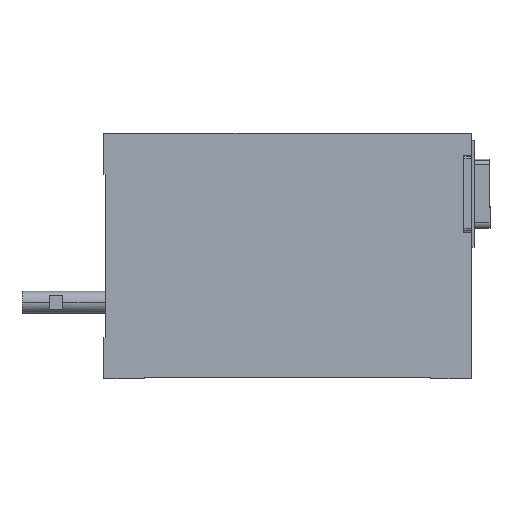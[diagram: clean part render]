
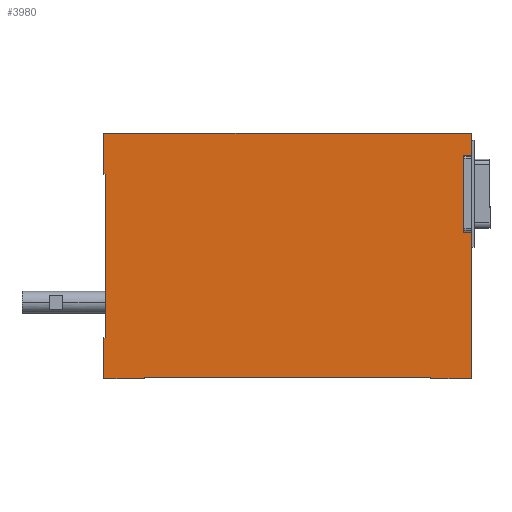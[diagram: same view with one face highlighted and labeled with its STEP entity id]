
A CAD part, top view. The second image highlights one B-rep face of the part: STEP entity #3980.
In plain terms, the highlighted planar face has unit normal (0, 0, 1).
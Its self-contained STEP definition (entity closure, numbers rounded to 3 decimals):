
#2625=CARTESIAN_POINT('',(64.,39.5,1.));
#2626=VERTEX_POINT('',#2625);
#2651=CARTESIAN_POINT('',(67.,39.5,1.));
#2652=VERTEX_POINT('',#2651);
#2659=CARTESIAN_POINT('',(64.,39.5,1.));
#2660=DIRECTION('',(1.0,0.0,0.0));
#2661=VECTOR('',#2660,3.0);
#2662=LINE('',#2659,#2661);
#2663=EDGE_CURVE('',#2626,#2652,#2662,.T.);
#2699=CARTESIAN_POINT('',(64.,11.2,1.));
#2700=VERTEX_POINT('',#2699);
#2707=CARTESIAN_POINT('',(67.,11.2,1.));
#2708=VERTEX_POINT('',#2707);
#2709=CARTESIAN_POINT('',(67.,11.2,1.));
#2710=DIRECTION('',(-1.0,0.0,0.0));
#2711=VECTOR('',#2710,3.0);
#2712=LINE('',#2709,#2711);
#2713=EDGE_CURVE('',#2708,#2700,#2712,.T.);
#3388=CARTESIAN_POINT('',(-67.5,-27.5,1.));
#3389=VERTEX_POINT('',#3388);
#3390=CARTESIAN_POINT('',(-67.5,32.5,1.));
#3391=VERTEX_POINT('',#3390);
#3392=CARTESIAN_POINT('',(-67.5,-27.5,1.));
#3393=DIRECTION('',(0.0,1.0,0.0));
#3394=VECTOR('',#3393,60.0);
#3395=LINE('',#3392,#3394);
#3396=EDGE_CURVE('',#3389,#3391,#3395,.T.);
#3447=CARTESIAN_POINT('',(67.,-42.5,1.));
#3448=VERTEX_POINT('',#3447);
#3449=CARTESIAN_POINT('',(67.,11.2,1.));
#3450=DIRECTION('',(0.0,-1.0,0.0));
#3451=VECTOR('',#3450,53.7);
#3452=LINE('',#3449,#3451);
#3453=EDGE_CURVE('',#2708,#3448,#3452,.T.);
#3462=CARTESIAN_POINT('',(67.,47.5,1.));
#3463=VERTEX_POINT('',#3462);
#3470=CARTESIAN_POINT('',(67.,47.5,1.));
#3471=DIRECTION('',(0.0,-1.0,0.0));
#3472=VECTOR('',#3471,8.0);
#3473=LINE('',#3470,#3472);
#3474=EDGE_CURVE('',#3463,#2652,#3473,.T.);
#3558=CARTESIAN_POINT('',(-68.,-42.5,1.));
#3559=VERTEX_POINT('',#3558);
#3560=CARTESIAN_POINT('',(-68.,-27.5,1.));
#3561=VERTEX_POINT('',#3560);
#3562=CARTESIAN_POINT('',(-68.,-42.5,1.));
#3563=DIRECTION('',(0.0,1.0,0.0));
#3564=VECTOR('',#3563,15.0);
#3565=LINE('',#3562,#3564);
#3566=EDGE_CURVE('',#3559,#3561,#3565,.T.);
#3604=CARTESIAN_POINT('',(-68.,-27.5,1.));
#3605=DIRECTION('',(1.0,0.0,0.0));
#3606=VECTOR('',#3605,0.5);
#3607=LINE('',#3604,#3606);
#3608=EDGE_CURVE('',#3561,#3389,#3607,.T.);
#3619=CARTESIAN_POINT('',(-68.,32.5,1.));
#3620=VERTEX_POINT('',#3619);
#3621=CARTESIAN_POINT('',(-67.5,32.5,1.));
#3622=DIRECTION('',(-1.0,0.0,0.0));
#3623=VECTOR('',#3622,0.5);
#3624=LINE('',#3621,#3623);
#3625=EDGE_CURVE('',#3391,#3620,#3624,.T.);
#3643=CARTESIAN_POINT('',(-68.,47.5,1.));
#3644=VERTEX_POINT('',#3643);
#3645=CARTESIAN_POINT('',(-68.,32.5,1.));
#3646=DIRECTION('',(0.0,1.0,0.0));
#3647=VECTOR('',#3646,15.);
#3648=LINE('',#3645,#3647);
#3649=EDGE_CURVE('',#3620,#3644,#3648,.T.);
#3761=CARTESIAN_POINT('',(64.,39.5,1.));
#3762=DIRECTION('',(0.0,-1.0,0.0));
#3763=VECTOR('',#3762,28.3);
#3764=LINE('',#3761,#3763);
#3765=EDGE_CURVE('',#2626,#2700,#3764,.T.);
#3788=CARTESIAN_POINT('',(-68.,47.5,1.));
#3789=DIRECTION('',(1.0,0.0,0.0));
#3790=VECTOR('',#3789,135.0);
#3791=LINE('',#3788,#3790);
#3792=EDGE_CURVE('',#3644,#3463,#3791,.T.);
#3815=CARTESIAN_POINT('',(52.,-42.5,1.));
#3816=VERTEX_POINT('',#3815);
#3817=CARTESIAN_POINT('',(67.,-42.5,1.));
#3818=DIRECTION('',(-1.0,0.0,0.0));
#3819=VECTOR('',#3818,15.);
#3820=LINE('',#3817,#3819);
#3821=EDGE_CURVE('',#3448,#3816,#3820,.T.);
#3857=CARTESIAN_POINT('',(52.,-42.,1.));
#3858=VERTEX_POINT('',#3857);
#3859=CARTESIAN_POINT('',(52.,-42.5,1.));
#3860=DIRECTION('',(0.0,1.0,0.0));
#3861=VECTOR('',#3860,0.5);
#3862=LINE('',#3859,#3861);
#3863=EDGE_CURVE('',#3816,#3858,#3862,.T.);
#3881=CARTESIAN_POINT('',(-53.0,-42.,1.));
#3882=VERTEX_POINT('',#3881);
#3883=CARTESIAN_POINT('',(52.,-42.,1.));
#3884=DIRECTION('',(-1.0,0.0,0.0));
#3885=VECTOR('',#3884,105.);
#3886=LINE('',#3883,#3885);
#3887=EDGE_CURVE('',#3858,#3882,#3886,.T.);
#3905=CARTESIAN_POINT('',(-53.0,-42.5,1.));
#3906=VERTEX_POINT('',#3905);
#3907=CARTESIAN_POINT('',(-53.0,-42.,1.));
#3908=DIRECTION('',(0.0,-1.0,0.0));
#3909=VECTOR('',#3908,0.5);
#3910=LINE('',#3907,#3909);
#3911=EDGE_CURVE('',#3882,#3906,#3910,.T.);
#3929=CARTESIAN_POINT('',(-53.0,-42.5,1.));
#3930=DIRECTION('',(-1.0,0.0,0.0));
#3931=VECTOR('',#3930,15.);
#3932=LINE('',#3929,#3931);
#3933=EDGE_CURVE('',#3906,#3559,#3932,.T.);
#3957=CARTESIAN_POINT('',(-0.086,0.018,1.));
#3958=DIRECTION('',(0.0,0.0,1.0));
#3959=DIRECTION('',(1.0,0.0,0.0));
#3960=AXIS2_PLACEMENT_3D('',#3957,#3958,#3959);
#3961=PLANE('',#3960);
#3962=ORIENTED_EDGE('',*,*,#3933,.F.);
#3963=ORIENTED_EDGE('',*,*,#3911,.F.);
#3964=ORIENTED_EDGE('',*,*,#3887,.F.);
#3965=ORIENTED_EDGE('',*,*,#3863,.F.);
#3966=ORIENTED_EDGE('',*,*,#3821,.F.);
#3967=ORIENTED_EDGE('',*,*,#3453,.F.);
#3968=ORIENTED_EDGE('',*,*,#2713,.T.);
#3969=ORIENTED_EDGE('',*,*,#3765,.F.);
#3970=ORIENTED_EDGE('',*,*,#2663,.T.);
#3971=ORIENTED_EDGE('',*,*,#3474,.F.);
#3972=ORIENTED_EDGE('',*,*,#3792,.F.);
#3973=ORIENTED_EDGE('',*,*,#3649,.F.);
#3974=ORIENTED_EDGE('',*,*,#3625,.F.);
#3975=ORIENTED_EDGE('',*,*,#3396,.F.);
#3976=ORIENTED_EDGE('',*,*,#3608,.F.);
#3977=ORIENTED_EDGE('',*,*,#3566,.F.);
#3978=EDGE_LOOP('',(#3962,#3963,#3964,#3965,#3966,#3967,#3968,#3969,#3970,#3971,#3972,#3973,#3974,#3975,#3976,#3977));
#3979=FACE_OUTER_BOUND('',#3978,.T.);
#3980=ADVANCED_FACE('',(#3979),#3961,.T.);
